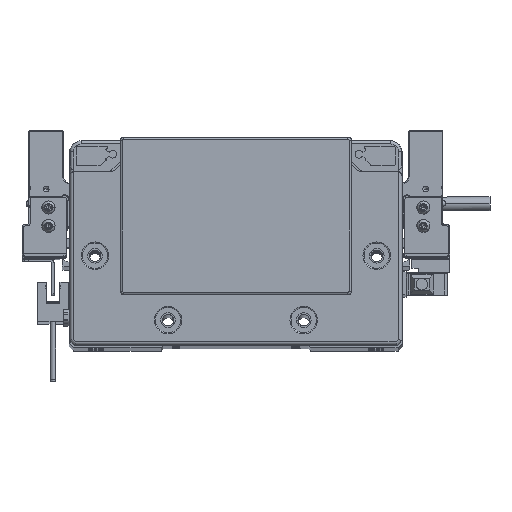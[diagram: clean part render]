
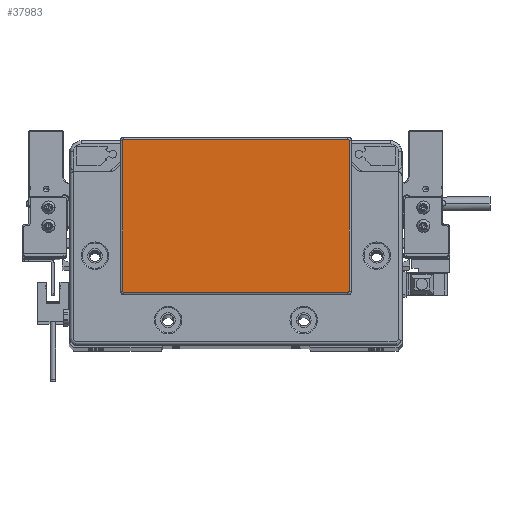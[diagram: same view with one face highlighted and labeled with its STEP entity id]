
A CAD part, top view. The second image highlights one B-rep face of the part: STEP entity #37983.
In plain terms, the highlighted planar face has unit normal (0, 0, 1) as drawn and (0, 0, -1) by its records, which use the part's own axes.
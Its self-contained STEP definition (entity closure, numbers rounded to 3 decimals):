
#5104 = ORIENTED_EDGE ( 'NONE', *, *, #33391, .T. ) ;
#7484 = EDGE_CURVE ( 'NONE', #23693, #26083, #73294, .T. ) ;
#7990 = DIRECTION ( 'NONE',  ( 0., 0., -1. ) ) ;
#8876 = CARTESIAN_POINT ( 'NONE',  ( -48.75, 44.3, -2. ) ) ;
#9169 = VERTEX_POINT ( 'NONE', #22622 ) ;
#9171 = DIRECTION ( 'NONE',  ( -1., 0., 0. ) ) ;
#10030 = DIRECTION ( 'NONE',  ( 0., 0., -1. ) ) ;
#13579 = VERTEX_POINT ( 'NONE', #25866 ) ;
#16114 = VECTOR ( 'NONE', #29120, 1000. ) ;
#18150 = EDGE_CURVE ( 'NONE', #26083, #13579, #75346, .T. ) ;
#18524 = ORIENTED_EDGE ( 'NONE', *, *, #43356, .T. ) ;
#18893 = CARTESIAN_POINT ( 'NONE',  ( 0., 0., -2. ) ) ;
#19481 = VERTEX_POINT ( 'NONE', #29673 ) ;
#19624 = AXIS2_PLACEMENT_3D ( 'NONE', #48595, #7990, #21964 ) ;
#19677 = DIRECTION ( 'NONE',  ( -1., 0., 0. ) ) ;
#20190 = VECTOR ( 'NONE', #26029, 1000. ) ;
#20629 = AXIS2_PLACEMENT_3D ( 'NONE', #18893, #65186, #73405 ) ;
#21498 = DIRECTION ( 'NONE',  ( 0., 0., -1. ) ) ;
#21964 = DIRECTION ( 'NONE',  ( -1., 0., 0. ) ) ;
#22446 = CIRCLE ( 'NONE', #19624, 0.5 ) ;
#22454 = CARTESIAN_POINT ( 'NONE',  ( -48.75, -22.3, -2. ) ) ;
#22622 = CARTESIAN_POINT ( 'NONE',  ( 49.25, -21.8, -2. ) ) ;
#23693 = VERTEX_POINT ( 'NONE', #22454 ) ;
#25866 = CARTESIAN_POINT ( 'NONE',  ( -49.25, 43.8, -2. ) ) ;
#25869 = FACE_OUTER_BOUND ( 'NONE', #83865, .T. ) ;
#26029 = DIRECTION ( 'NONE',  ( 0., -1., 0. ) ) ;
#26046 = EDGE_CURVE ( 'NONE', #9169, #54218, #22446, .T. ) ;
#26083 = VERTEX_POINT ( 'NONE', #73450 ) ;
#29116 = VERTEX_POINT ( 'NONE', #8876 ) ;
#29120 = DIRECTION ( 'NONE',  ( 0., 1., 0. ) ) ;
#29547 = CARTESIAN_POINT ( 'NONE',  ( -49.25, 43.8, -2. ) ) ;
#29673 = CARTESIAN_POINT ( 'NONE',  ( 49.25, 43.8, -2. ) ) ;
#30540 = DIRECTION ( 'NONE',  ( -1., 0., 0. ) ) ;
#31025 = ORIENTED_EDGE ( 'NONE', *, *, #72370, .T. ) ;
#31813 = CARTESIAN_POINT ( 'NONE',  ( -48.75, -22.3, -2. ) ) ;
#31996 = EDGE_CURVE ( 'NONE', #54218, #23693, #37924, .T. ) ;
#33384 = CARTESIAN_POINT ( 'NONE',  ( 48.75, -22.3, -2. ) ) ;
#33391 = EDGE_CURVE ( 'NONE', #19481, #9169, #45233, .T. ) ;
#33699 = ORIENTED_EDGE ( 'NONE', *, *, #44641, .T. ) ;
#33935 = ORIENTED_EDGE ( 'NONE', *, *, #18150, .T. ) ;
#35821 = CARTESIAN_POINT ( 'NONE',  ( -48.75, 43.8, -2. ) ) ;
#37924 = LINE ( 'NONE', #31813, #77384 ) ;
#37983 = ADVANCED_FACE ( 'NONE', ( #25869 ), #80410, .T. ) ;
#38572 = CARTESIAN_POINT ( 'NONE',  ( 48.75, 44.3, -2. ) ) ;
#42692 = DIRECTION ( 'NONE',  ( 0., 0., -1. ) ) ;
#42698 = AXIS2_PLACEMENT_3D ( 'NONE', #54939, #42692, #19677 ) ;
#43356 = EDGE_CURVE ( 'NONE', #29116, #46379, #51688, .T. ) ;
#44641 = EDGE_CURVE ( 'NONE', #13579, #29116, #60023, .T. ) ;
#45233 = LINE ( 'NONE', #71389, #20190 ) ;
#46379 = VERTEX_POINT ( 'NONE', #64057 ) ;
#48126 = DIRECTION ( 'NONE',  ( -1., 0., 0. ) ) ;
#48595 = CARTESIAN_POINT ( 'NONE',  ( 48.75, -21.8, -2. ) ) ;
#50252 = AXIS2_PLACEMENT_3D ( 'NONE', #35821, #10030, #9171 ) ;
#51688 = LINE ( 'NONE', #38572, #65376 ) ;
#54218 = VERTEX_POINT ( 'NONE', #33384 ) ;
#54661 = CIRCLE ( 'NONE', #79708, 0.5 ) ;
#54939 = CARTESIAN_POINT ( 'NONE',  ( -48.75, -21.8, -2. ) ) ;
#56819 = ORIENTED_EDGE ( 'NONE', *, *, #26046, .T. ) ;
#60023 = CIRCLE ( 'NONE', #50252, 0.5 ) ;
#64057 = CARTESIAN_POINT ( 'NONE',  ( 48.75, 44.3, -2. ) ) ;
#65186 = DIRECTION ( 'NONE',  ( 0., 0., -1. ) ) ;
#65211 = ORIENTED_EDGE ( 'NONE', *, *, #31996, .T. ) ;
#65376 = VECTOR ( 'NONE', #86150, 1000. ) ;
#71389 = CARTESIAN_POINT ( 'NONE',  ( 49.25, -21.8, -2. ) ) ;
#72370 = EDGE_CURVE ( 'NONE', #46379, #19481, #54661, .T. ) ;
#73294 = CIRCLE ( 'NONE', #42698, 0.5 ) ;
#73405 = DIRECTION ( 'NONE',  ( -1., 0., 0. ) ) ;
#73450 = CARTESIAN_POINT ( 'NONE',  ( -49.25, -21.8, -2. ) ) ;
#75346 = LINE ( 'NONE', #29547, #16114 ) ;
#77384 = VECTOR ( 'NONE', #30540, 1000. ) ;
#79708 = AXIS2_PLACEMENT_3D ( 'NONE', #81282, #21498, #48126 ) ;
#80410 = PLANE ( 'NONE',  #20629 ) ;
#81282 = CARTESIAN_POINT ( 'NONE',  ( 48.75, 43.8, -2. ) ) ;
#83865 = EDGE_LOOP ( 'NONE', ( #5104, #56819, #65211, #85968, #33935, #33699, #18524, #31025 ) ) ;
#85968 = ORIENTED_EDGE ( 'NONE', *, *, #7484, .T. ) ;
#86150 = DIRECTION ( 'NONE',  ( 1., 0., 0. ) ) ;
